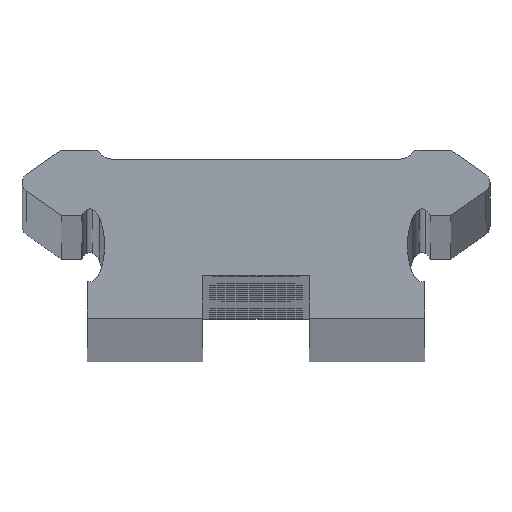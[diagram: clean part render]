
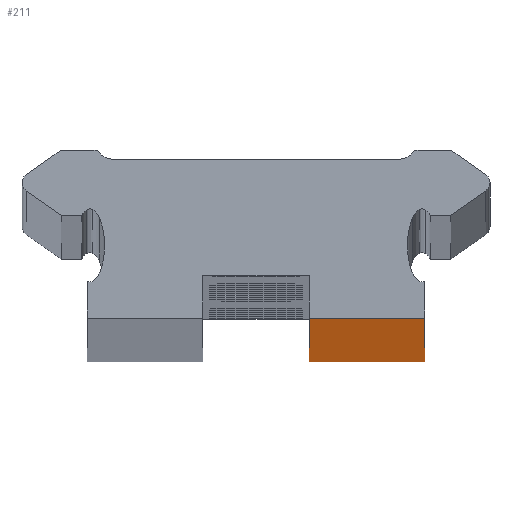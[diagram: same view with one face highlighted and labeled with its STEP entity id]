
A CAD part, top view. The second image highlights one B-rep face of the part: STEP entity #211.
In plain terms, the highlighted planar face has unit normal (0, -1, 0).
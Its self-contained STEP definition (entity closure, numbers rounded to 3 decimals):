
#211=ADVANCED_FACE('',(#533),#534,.T.);
#533=FACE_OUTER_BOUND('',#882,.T.);
#534=PLANE('',#883);
#882=EDGE_LOOP('',(#1911,#1912,#1913,#1914));
#883=AXIS2_PLACEMENT_3D('',#1915,#1916,#1917);
#1911=ORIENTED_EDGE('',*,*,#2412,.T.);
#1912=ORIENTED_EDGE('',*,*,#2413,.F.);
#1913=ORIENTED_EDGE('',*,*,#2414,.T.);
#1914=ORIENTED_EDGE('',*,*,#2410,.T.);
#1915=CARTESIAN_POINT('',(8.35,0.0,0.0));
#1916=DIRECTION('',(0.0,-1.0,0.0));
#1917=DIRECTION('',(1.0,0.0,0.0));
#2410=EDGE_CURVE('',#3001,#2999,#3002,.T.);
#2412=EDGE_CURVE('',#2999,#3004,#3005,.T.);
#2413=EDGE_CURVE('',#3006,#3004,#3007,.T.);
#2414=EDGE_CURVE('',#3006,#3001,#3008,.T.);
#2999=VERTEX_POINT('',#3734);
#3001=VERTEX_POINT('',#3737);
#3002=LINE('',#3738,#3739);
#3004=VERTEX_POINT('',#3742);
#3005=LINE('',#3743,#3744);
#3006=VERTEX_POINT('',#3745);
#3007=LINE('',#3746,#3747);
#3008=LINE('',#3748,#3749);
#3734=CARTESIAN_POINT('',(12.7,0.0,1886.0));
#3737=CARTESIAN_POINT('',(12.7,0.0,0.0));
#3738=CARTESIAN_POINT('',(12.7,0.0,0.0));
#3739=VECTOR('',#4538,1.0);
#3742=CARTESIAN_POINT('',(4.0,0.0,1886.0));
#3743=CARTESIAN_POINT('',(4.0,0.0,1886.0));
#3744=VECTOR('',#4540,1.0);
#3745=CARTESIAN_POINT('',(4.0,0.0,0.0));
#3746=CARTESIAN_POINT('',(4.0,0.0,0.0));
#3747=VECTOR('',#4541,1.0);
#3748=CARTESIAN_POINT('',(4.0,0.0,0.0));
#3749=VECTOR('',#4542,1.0);
#4538=DIRECTION('',(0.0,0.0,1.0));
#4540=DIRECTION('',(-1.0,-0.0,-0.0));
#4541=DIRECTION('',(0.0,0.0,1.0));
#4542=DIRECTION('',(1.0,0.0,0.0));
